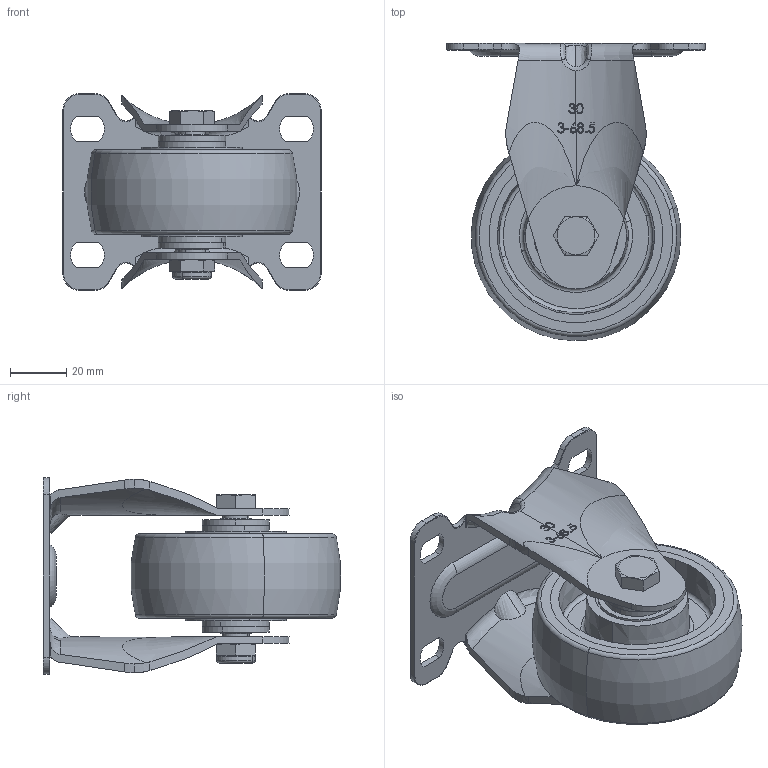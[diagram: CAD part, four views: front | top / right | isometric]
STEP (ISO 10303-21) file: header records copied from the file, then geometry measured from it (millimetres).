
FILE_DESCRIPTION (( 'STEP AP203' ), '1' );
FILE_NAME ('4113003001016.STEP', '2024-11-14T00:32:17', ( '' ), ( '' ), 'SwSTEP 2.0', 'SolidWorks 2019', '' );
FILE_SCHEMA (( 'CONFIG_CONTROL_DESIGN' ));
Length unit declared in the file: millimetre
Products named in the file (9): 4503250007 3''''''''_______K_____q.STEP; 4301600103 ___L(_s_]-6001U)____-41.STEP; 4502090003 ___s___U 20190422.STEP; 412920300001-AQPU__(____) 3''''''''(_r75x30-6001__)_T__75A-__.STEP; 4113003001016.STEP; 213001030002-30_t_C_T_w_[-_q_______.STEP; 4113003001016; 4202095401 4''''''''.5''''''''____.______________ 20190430.STEP; 242051210003 ____(___~__) 11.85x10x41L 20080710.STEP
Assembly tree (11 placements, depth 4):
  4113003001016
    4113003001016.STEP
      412920300001-AQPU__(____) 3''''''''(_r75x30-6001__)_T__75A-__.STEP
        4301600103 ___L(_s_]-6001U)____-41.STEP
      213001030002-30_t_C_T_w_[-_q_______.STEP
      4202095401 4''''''''.5''''''''____.______________ 20190430.STEP
      4502090003 ___s___U 20190422.STEP
      242051210003 ____(___~__) 11.85x10x41L 20080710.STEP
      4503250007 3''''''''_______K_____q.STEP  x4
Bounding box: 92 x 105.79 x 70 mm (x, y, z)
Volume: 121047.1 mm3; surface area: 76858.7 mm2
Topology: 38 solids, 38 shells, 477 faces, 1270 edges, 789 vertices
Faces by surface type: cylinder 146, plane 107, sphere 96, torus 54, cone 42, bspline 32
Entity records: 22198 total; most frequent: CARTESIAN_POINT 10642, DIRECTION 2245, ORIENTED_EDGE 2164, EDGE_CURVE 1082, AXIS2_PLACEMENT_3D 969, VERTEX_POINT 717, CIRCLE 526, EDGE_LOOP 513
